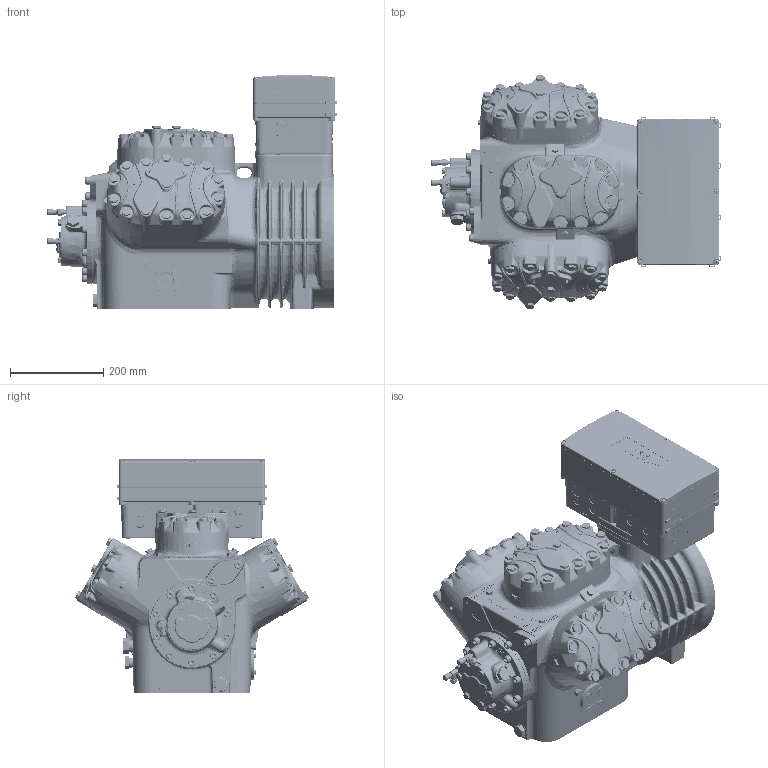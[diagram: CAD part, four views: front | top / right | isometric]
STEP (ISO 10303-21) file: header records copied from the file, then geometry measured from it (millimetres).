
FILE_DESCRIPTION(/* description */ (''),/* implementation_level */ '2;1');
FILE_NAME(/* name */ 'BE6 Standard.stp',/* time_stamp */ '2024-06-03T15:36:39+02:00',/* author */ (''),/* organization */ (''),/* preprocessor_version */ 'ST-DEVELOPER v19.4',/* originating_system */ 'SIEMENS PLM Software NX2212.8901',/* authorisation */ '');
FILE_SCHEMA (('AUTOMOTIVE_DESIGN { 1 0 10303 214 3 1 1 1 }'));
Products named in the file (8): 200695847ugm001_00; 200696034ugm001_00; 200635524ugm001_00; 200072024ugm001_02; 200002192ugm001_00; 200681897ugm001_00; 200050358ugm001_01; 200052447ugm001_07
Assembly tree (9 placements, depth 2):
  200052447ugm001_07
    200050358ugm001_01  x3
    200681897ugm001_00
    200002192ugm001_00
    200072024ugm001_02
    200635524ugm001_00
    200696034ugm001_00
    200695847ugm001_00
Bounding box: 620.5 x 501.78 x 500.55 mm (x, y, z)
Volume: 70468148 mm3; surface area: 2262969.5 mm2
Topology: 11 solids, 72 shells, 11428 faces, 28334 edges, 17197 vertices
Faces by surface type: plane 3699, bspline 3409, cylinder 1616, cone 1326, torus 957, extrusion 274, sphere 141, revolution 6
Full cylindrical faces by diameter (mm): 3 x8, 4.51 x24, 4.8 x6, 4.826 x14, 5 x20, 5.795 x2, 6 x8, 6.1 x1, 6.5 x4, 6.6 x2, 7.938 x2, 8 x12, 8.5 x17, 8.611 x3, 8.782 x1, 8.9 x4, 9.5 x12, 10 x12, 10.287 x4, 10.3 x4, 10.5 x4, 11 x17, 11.2 x6, 13 x2, 13.716 x1, 14.4 x1, 15 x1, 16 x12, 16.4 x1, 17.145 x1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
Entity records: 322781 total; most frequent: CARTESIAN_POINT 122303, ORIENTED_EDGE 41802, DIRECTION 34858, EDGE_CURVE 20901, AXIS2_PLACEMENT_3D 14046, VERTEX_POINT 13487, EDGE_LOOP 10402, ADVANCED_FACE 8942
